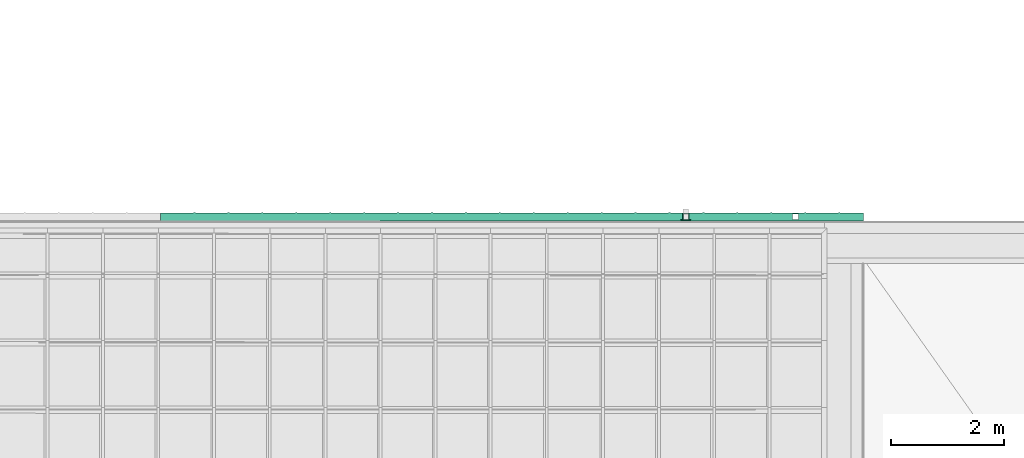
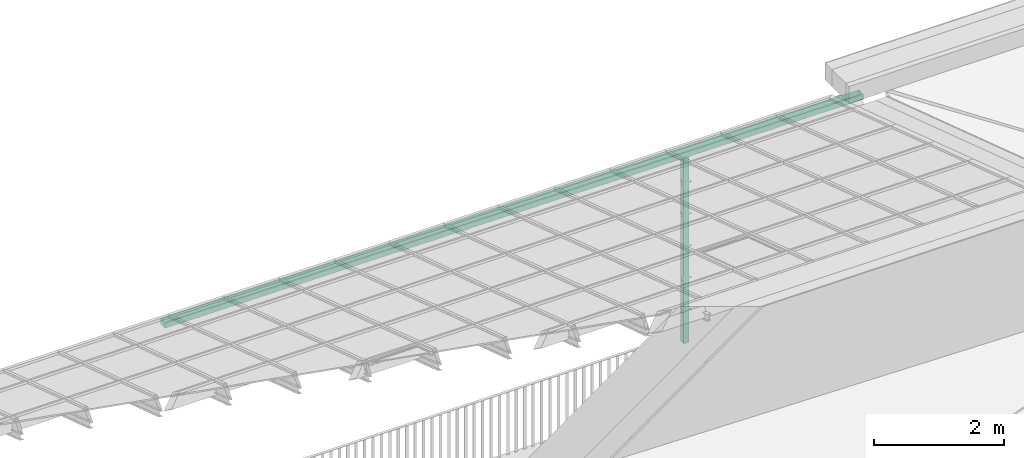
# One storey, part 29 of 47: 2 flow terminals.
"""IFC2X3 building model written with IfcOpenShell, lengths in millimetres."""

from ifc_helpers import new_model, entity, si_unit, converted_unit, derived_unit, money_unit, direction, frame, origin_with_axes, place, context, subcontext, project, spatial, open_shell, faceted_brep, surface_model, type_object, element, save


model = new_model("IFC2X3")

# Units and contexts
model_context = context("Model", 3, precision=1e-05, world=origin_with_axes(), true_north=direction((0.0, 1.0)))
body_context = subcontext(model_context, "Body", "Model", "MODEL_VIEW")
ifc_project = project(units=[si_unit("LENGTHUNIT", "METRE", prefix="MILLI"), si_unit("AREAUNIT", "SQUARE_METRE"), si_unit("VOLUMEUNIT", "CUBIC_METRE"), converted_unit("PLANEANGLEUNIT", "DEGREE", entity("IfcPlaneAngleMeasure", 0.0174532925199), si_unit("PLANEANGLEUNIT", "RADIAN"), dimensions=[0, 0, 0, 0, 0, 0, 0]), si_unit("SOLIDANGLEUNIT", "STERADIAN"), money_unit("EUR"), converted_unit("TIMEUNIT", "Year", entity("IfcTimeMeasure", 31556926.0), si_unit("TIMEUNIT", "SECOND"), dimensions=[0, 0, 1, 0, 0, 0, 0]), si_unit("MASSUNIT", "GRAM", prefix="KILO"), si_unit("THERMODYNAMICTEMPERATUREUNIT", "DEGREE_CELSIUS"), si_unit("LUMINOUSINTENSITYUNIT", "LUMEN"), si_unit("ENERGYUNIT", "JOULE", prefix="MEGA"), derived_unit("THERMALCONDUCTANCEUNIT", [(si_unit("POWERUNIT", "WATT"), 1), (si_unit("LENGTHUNIT", "METRE"), -1), (si_unit("THERMODYNAMICTEMPERATUREUNIT", "KELVIN"), -1)]), derived_unit("SPECIFICHEATCAPACITYUNIT", [(si_unit("ENERGYUNIT", "JOULE"), 1), (si_unit("MASSUNIT", "GRAM", prefix="KILO"), -1), (si_unit("THERMODYNAMICTEMPERATUREUNIT", "KELVIN"), -1)]), derived_unit("MASSDENSITYUNIT", [(si_unit("MASSUNIT", "GRAM", prefix="KILO"), 1), (si_unit("VOLUMEUNIT", "CUBIC_METRE"), -1)])], contexts=[model_context])

# Site, building, storey
site_placement = place(None, origin_with_axes())
site = spatial("IfcSite", under=ifc_project, at=site_placement, Name="Site", CompositionType="ELEMENT")
building_placement = place(site_placement, origin_with_axes())
building = spatial("IfcBuilding", under=site, at=building_placement, Name="Building", CompositionType="ELEMENT")
storey_placement = place(building_placement, frame((0.0, 0.0, 6000.0), z_axis=(0.0, 0.0, 1.0), x_axis=(1.0, 0.0, 0.0)))
storey = spatial("IfcBuildingStorey", under=building, at=storey_placement, Name="KATUSEPLAAN", CompositionType="ELEMENT", Elevation=6000.0)

# Flow terminals
waste_terminal_type_1 = type_object("IfcWasteTerminalType", Name="Gutter 22", PredefinedType="NOTDEFINED")
flow_terminal_1_placement = place(storey_placement, frame((76089.514123, 47597.8063405, 502.039034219), z_axis=(0.0, 0.0, 1.0), x_axis=(-1.0, 0.0, 0.0)))
element("IfcFlowTerminal", 1, at=flow_terminal_1_placement, inside=storey, type_object=waste_terminal_type_1, Name="Renn", context=body_context, shape_type="SurfaceModel", body=[
    surface_model("IfcShellBasedSurfaceModel", [(0.349065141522, 70.0, -99.9993907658), (-12429.6509349, 70.0, -143.388452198), (-12429.6509349, -70.0, -143.388452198), (0.349065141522, -70.0, -99.9993907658), (-11279.5822133, 50.0, -139.37393873), (-11179.5828225, 50.0, -139.024873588), (-11179.5828225, -50.0, -139.024873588), (-11279.5822133, -50.0, -139.37393873), (-12430.0, 70.0, -43.3890614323), (0.0, 70.0, 0.0), (-12430.0, -70.0, -43.3890614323), (0.0, -70.0, 0.0)], [open_shell([[[0, 1, 2, 3], [4, 5, 6, 7]], [[8, 1, 0, 9]], [[2, 10, 11, 3]]])]),
    surface_model("IfcShellBasedSurfaceModel", [(-585.0, -74.0, -0.0420435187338), (-615.0, -74.0, -0.0420435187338), (-615.0, -74.0, -104.147372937), (-585.0, -74.0, -104.147372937), (-615.0, 74.0, -104.147372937), (-585.0, 74.0, -104.147372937), (-615.0, 74.0, -0.0420435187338), (-585.0, 74.0, -0.0420435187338)], [open_shell([[[0, 1, 2, 3]], [[3, 2, 4, 5]], [[5, 4, 6, 7]]])]),
    surface_model("IfcShellBasedSurfaceModel", [(-1185.0, -74.0, -2.13644712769), (-1215.0, -74.0, -2.13644712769), (-1215.0, -74.0, -106.241776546), (-1185.0, -74.0, -106.241776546), (-1215.0, 74.0, -106.241776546), (-1185.0, 74.0, -106.241776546), (-1215.0, 74.0, -2.13644712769), (-1185.0, 74.0, -2.13644712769)], [open_shell([[[0, 1, 2, 3]], [[3, 2, 4, 5]], [[5, 4, 6, 7]]])]),
    surface_model("IfcShellBasedSurfaceModel", [(-1785.0, -74.0, -4.23085073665), (-1815.0, -74.0, -4.23085073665), (-1815.0, -74.0, -108.336180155), (-1785.0, -74.0, -108.336180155), (-1815.0, 74.0, -108.336180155), (-1785.0, 74.0, -108.336180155), (-1815.0, 74.0, -4.23085073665), (-1785.0, 74.0, -4.23085073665)], [open_shell([[[0, 1, 2, 3]], [[3, 2, 4, 5]], [[5, 4, 6, 7]]])]),
    surface_model("IfcShellBasedSurfaceModel", [(-2385.0, -74.0, -6.32525434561), (-2415.0, -74.0, -6.32525434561), (-2415.0, -74.0, -110.430583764), (-2385.0, -74.0, -110.430583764), (-2415.0, 74.0, -110.430583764), (-2385.0, 74.0, -110.430583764), (-2415.0, 74.0, -6.32525434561), (-2385.0, 74.0, -6.32525434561)], [open_shell([[[0, 1, 2, 3]], [[3, 2, 4, 5]], [[5, 4, 6, 7]]])]),
    surface_model("IfcShellBasedSurfaceModel", [(-2985.0, -74.0, -8.41965795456), (-3015.0, -74.0, -8.41965795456), (-3015.0, -74.0, -112.524987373), (-2985.0, -74.0, -112.524987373), (-3015.0, 74.0, -112.524987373), (-2985.0, 74.0, -112.524987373), (-3015.0, 74.0, -8.41965795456), (-2985.0, 74.0, -8.41965795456)], [open_shell([[[0, 1, 2, 3]], [[3, 2, 4, 5]], [[5, 4, 6, 7]]])]),
    surface_model("IfcShellBasedSurfaceModel", [(-3585.0, -74.0, -10.5140615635), (-3615.0, -74.0, -10.5140615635), (-3615.0, -74.0, -114.619390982), (-3585.0, -74.0, -114.619390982), (-3615.0, 74.0, -114.619390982), (-3585.0, 74.0, -114.619390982), (-3615.0, 74.0, -10.5140615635), (-3585.0, 74.0, -10.5140615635)], [open_shell([[[0, 1, 2, 3]], [[3, 2, 4, 5]], [[5, 4, 6, 7]]])]),
    surface_model("IfcShellBasedSurfaceModel", [(-4185.0, -74.0, -12.6084651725), (-4215.0, -74.0, -12.6084651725), (-4215.0, -74.0, -116.713794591), (-4185.0, -74.0, -116.713794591), (-4215.0, 74.0, -116.713794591), (-4185.0, 74.0, -116.713794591), (-4215.0, 74.0, -12.6084651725), (-4185.0, 74.0, -12.6084651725)], [open_shell([[[0, 1, 2, 3]], [[3, 2, 4, 5]], [[5, 4, 6, 7]]])]),
    surface_model("IfcShellBasedSurfaceModel", [(-4785.0, -74.0, -14.7028687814), (-4815.0, -74.0, -14.7028687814), (-4815.0, -74.0, -118.8081982), (-4785.0, -74.0, -118.8081982), (-4815.0, 74.0, -118.8081982), (-4785.0, 74.0, -118.8081982), (-4815.0, 74.0, -14.7028687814), (-4785.0, 74.0, -14.7028687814)], [open_shell([[[0, 1, 2, 3]], [[3, 2, 4, 5]], [[5, 4, 6, 7]]])]),
    surface_model("IfcShellBasedSurfaceModel", [(-5385.0, -74.0, -16.7972723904), (-5415.0, -74.0, -16.7972723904), (-5415.0, -74.0, -120.902601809), (-5385.0, -74.0, -120.902601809), (-5415.0, 74.0, -120.902601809), (-5385.0, 74.0, -120.902601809), (-5415.0, 74.0, -16.7972723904), (-5385.0, 74.0, -16.7972723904)], [open_shell([[[0, 1, 2, 3]], [[3, 2, 4, 5]], [[5, 4, 6, 7]]])]),
    surface_model("IfcShellBasedSurfaceModel", [(-5985.0, -74.0, -18.8916759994), (-6015.0, -74.0, -18.8916759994), (-6015.0, -74.0, -122.997005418), (-5985.0, -74.0, -122.997005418), (-6015.0, 74.0, -122.997005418), (-5985.0, 74.0, -122.997005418), (-6015.0, 74.0, -18.8916759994), (-5985.0, 74.0, -18.8916759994)], [open_shell([[[0, 1, 2, 3]], [[3, 2, 4, 5]], [[5, 4, 6, 7]]])]),
    surface_model("IfcShellBasedSurfaceModel", [(-6585.0, -74.0, -20.9860796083), (-6615.0, -74.0, -20.9860796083), (-6615.0, -74.0, -125.091409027), (-6585.0, -74.0, -125.091409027), (-6615.0, 74.0, -125.091409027), (-6585.0, 74.0, -125.091409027), (-6615.0, 74.0, -20.9860796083), (-6585.0, 74.0, -20.9860796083)], [open_shell([[[0, 1, 2, 3]], [[3, 2, 4, 5]], [[5, 4, 6, 7]]])]),
    surface_model("IfcShellBasedSurfaceModel", [(-7185.0, -74.0, -23.0804832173), (-7215.0, -74.0, -23.0804832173), (-7215.0, -74.0, -127.185812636), (-7185.0, -74.0, -127.185812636), (-7215.0, 74.0, -127.185812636), (-7185.0, 74.0, -127.185812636), (-7215.0, 74.0, -23.0804832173), (-7185.0, 74.0, -23.0804832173)], [open_shell([[[0, 1, 2, 3]], [[3, 2, 4, 5]], [[5, 4, 6, 7]]])]),
    surface_model("IfcShellBasedSurfaceModel", [(-7785.0, -74.0, -25.1748868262), (-7815.0, -74.0, -25.1748868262), (-7815.0, -74.0, -129.280216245), (-7785.0, -74.0, -129.280216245), (-7815.0, 74.0, -129.280216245), (-7785.0, 74.0, -129.280216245), (-7815.0, 74.0, -25.1748868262), (-7785.0, 74.0, -25.1748868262)], [open_shell([[[0, 1, 2, 3]], [[3, 2, 4, 5]], [[5, 4, 6, 7]]])]),
    surface_model("IfcShellBasedSurfaceModel", [(-8385.0, -74.0, -27.2692904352), (-8415.0, -74.0, -27.2692904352), (-8415.0, -74.0, -131.374619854), (-8385.0, -74.0, -131.374619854), (-8415.0, 74.0, -131.374619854), (-8385.0, 74.0, -131.374619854), (-8415.0, 74.0, -27.2692904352), (-8385.0, 74.0, -27.2692904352)], [open_shell([[[0, 1, 2, 3]], [[3, 2, 4, 5]], [[5, 4, 6, 7]]])]),
    surface_model("IfcShellBasedSurfaceModel", [(-8985.0, -74.0, -29.3636940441), (-9015.0, -74.0, -29.3636940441), (-9015.0, -74.0, -133.469023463), (-8985.0, -74.0, -133.469023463), (-9015.0, 74.0, -133.469023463), (-8985.0, 74.0, -133.469023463), (-9015.0, 74.0, -29.3636940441), (-8985.0, 74.0, -29.3636940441)], [open_shell([[[0, 1, 2, 3]], [[3, 2, 4, 5]], [[5, 4, 6, 7]]])]),
    surface_model("IfcShellBasedSurfaceModel", [(-9585.0, -74.0, -31.4580976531), (-9615.0, -74.0, -31.4580976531), (-9615.0, -74.0, -135.563427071), (-9585.0, -74.0, -135.563427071), (-9615.0, 74.0, -135.563427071), (-9585.0, 74.0, -135.563427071), (-9615.0, 74.0, -31.4580976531), (-9585.0, 74.0, -31.4580976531)], [open_shell([[[0, 1, 2, 3]], [[3, 2, 4, 5]], [[5, 4, 6, 7]]])]),
    surface_model("IfcShellBasedSurfaceModel", [(-10185.0, -74.0, -33.5525012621), (-10215.0, -74.0, -33.5525012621), (-10215.0, -74.0, -137.65783068), (-10185.0, -74.0, -137.65783068), (-10215.0, 74.0, -137.65783068), (-10185.0, 74.0, -137.65783068), (-10215.0, 74.0, -33.5525012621), (-10185.0, 74.0, -33.5525012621)], [open_shell([[[0, 1, 2, 3]], [[3, 2, 4, 5]], [[5, 4, 6, 7]]])]),
    surface_model("IfcShellBasedSurfaceModel", [(-10785.0, -74.0, -35.646904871), (-10815.0, -74.0, -35.646904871), (-10815.0, -74.0, -139.752234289), (-10785.0, -74.0, -139.752234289), (-10815.0, 74.0, -139.752234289), (-10785.0, 74.0, -139.752234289), (-10815.0, 74.0, -35.646904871), (-10785.0, 74.0, -35.646904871)], [open_shell([[[0, 1, 2, 3]], [[3, 2, 4, 5]], [[5, 4, 6, 7]]])]),
    surface_model("IfcShellBasedSurfaceModel", [(-11385.0, -74.0, -37.74130848), (-11415.0, -74.0, -37.74130848), (-11415.0, -74.0, -141.846637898), (-11385.0, -74.0, -141.846637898), (-11415.0, 74.0, -141.846637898), (-11385.0, 74.0, -141.846637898), (-11415.0, 74.0, -37.74130848), (-11385.0, 74.0, -37.74130848)], [open_shell([[[0, 1, 2, 3]], [[3, 2, 4, 5]], [[5, 4, 6, 7]]])]),
    surface_model("IfcShellBasedSurfaceModel", [(-11985.0, -74.0, -39.8357120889), (-12015.0, -74.0, -39.8357120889), (-12015.0, -74.0, -143.941041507), (-11985.0, -74.0, -143.941041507), (-12015.0, 74.0, -143.941041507), (-11985.0, 74.0, -143.941041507), (-12015.0, 74.0, -39.8357120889), (-11985.0, 74.0, -39.8357120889)], [open_shell([[[0, 1, 2, 3]], [[3, 2, 4, 5]], [[5, 4, 6, 7]]])]),
    surface_model("IfcShellBasedSurfaceModel", [(0.0, 70.0, 0.0), (0.0, -70.0, 0.0), (0.349065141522, -70.0, -99.9993907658), (0.349065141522, 70.0, -99.9993907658)], [open_shell([[[0, 1, 2, 3]]])]),
    surface_model("IfcShellBasedSurfaceModel", [(-12430.0, 70.0, -43.3890614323), (-12430.0, -70.0, -43.3890614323), (-12429.6509349, -70.0, -143.388452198), (-12429.6509349, 70.0, -143.388452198)], [open_shell([[[0, 1, 2, 3]]])]),
])
waste_terminal_type_2 = type_object("IfcWasteTerminalType", Name="Downspout 22", PredefinedType="NOTDEFINED")
flow_terminal_2_placement = place(storey_placement, frame((85378.802234, 47597.944531, -3139.11513673), z_axis=(0.0, 0.0, 1.0), x_axis=(-1.0, 0.0, 0.0)))
element("IfcFlowTerminal", 2, at=flow_terminal_2_placement, inside=storey, type_object=waste_terminal_type_2, Name="FU - 002", context=body_context, shape_type="SurfaceModel", body=[
    surface_model("IfcShellBasedSurfaceModel", [(50.0, -50.0, 3500.0), (50.0, -50.0, 0.0), (50.0, 50.0, 0.0), (50.0, 50.0, 3500.0), (-50.0, -50.0, 3500.0), (-50.0, -50.0, 0.0), (-50.0, 50.0, 0.0), (-50.0, 50.0, 3500.0)], [open_shell([[[0, 1, 2, 3]], [[4, 5, 1, 0]], [[3, 2, 6, 7]], [[7, 6, 5, 4]]])]),
    faceted_brep([(90.0, 47.9, 600.0), (90.0, 47.9, 630.0), (52.0, 47.9, 630.0), (52.0, 47.9, 600.0), (90.0, 49.9, 600.0), (90.0, 49.9, 630.0), (50.2, 49.9, 630.0), (50.2, -50.3, 630.0), (-50.2, -50.3, 630.0), (-50.2, 49.9, 630.0), (-90.0, 49.9, 630.0), (-90.0, 47.9, 630.0), (-52.0, 47.9, 630.0), (-52.0, -52.1, 630.0), (52.0, -52.1, 630.0), (52.0, -52.1, 600.0), (-52.0, -52.1, 600.0), (-52.0, 47.9, 600.0), (-90.0, 47.9, 600.0), (-90.0, 49.9, 600.0), (-50.2, 49.9, 600.0), (-50.2, -50.3, 600.0), (50.2, -50.3, 600.0), (50.2, 49.9, 600.0)], [[[0, 1, 2, 3]], [[4, 5, 1, 0]], [[1, 5, 6, 7, 8, 9, 10, 11, 12, 13, 14, 2]], [[3, 2, 14, 15]], [[0, 3, 15, 16, 17, 18, 19, 20, 21, 22, 23, 4]], [[23, 6, 5, 4]], [[22, 7, 6, 23]], [[21, 8, 7, 22]], [[20, 9, 8, 21]], [[19, 10, 9, 20]], [[18, 11, 10, 19]], [[17, 12, 11, 18]], [[16, 13, 12, 17]], [[15, 14, 13, 16]]]),
    faceted_brep([(90.0, 47.9, 1200.0), (90.0, 47.9, 1230.0), (52.0, 47.9, 1230.0), (52.0, 47.9, 1200.0), (90.0, 49.9, 1200.0), (90.0, 49.9, 1230.0), (50.2, 49.9, 1230.0), (50.2, -50.3, 1230.0), (-50.2, -50.3, 1230.0), (-50.2, 49.9, 1230.0), (-90.0, 49.9, 1230.0), (-90.0, 47.9, 1230.0), (-52.0, 47.9, 1230.0), (-52.0, -52.1, 1230.0), (52.0, -52.1, 1230.0), (52.0, -52.1, 1200.0), (-52.0, -52.1, 1200.0), (-52.0, 47.9, 1200.0), (-90.0, 47.9, 1200.0), (-90.0, 49.9, 1200.0), (-50.2, 49.9, 1200.0), (-50.2, -50.3, 1200.0), (50.2, -50.3, 1200.0), (50.2, 49.9, 1200.0)], [[[0, 1, 2, 3]], [[4, 5, 1, 0]], [[1, 5, 6, 7, 8, 9, 10, 11, 12, 13, 14, 2]], [[3, 2, 14, 15]], [[0, 3, 15, 16, 17, 18, 19, 20, 21, 22, 23, 4]], [[23, 6, 5, 4]], [[22, 7, 6, 23]], [[21, 8, 7, 22]], [[20, 9, 8, 21]], [[19, 10, 9, 20]], [[18, 11, 10, 19]], [[17, 12, 11, 18]], [[16, 13, 12, 17]], [[15, 14, 13, 16]]]),
    faceted_brep([(90.0, 47.9, 1800.0), (90.0, 47.9, 1830.0), (52.0, 47.9, 1830.0), (52.0, 47.9, 1800.0), (90.0, 49.9, 1800.0), (90.0, 49.9, 1830.0), (50.2, 49.9, 1830.0), (50.2, -50.3, 1830.0), (-50.2, -50.3, 1830.0), (-50.2, 49.9, 1830.0), (-90.0, 49.9, 1830.0), (-90.0, 47.9, 1830.0), (-52.0, 47.9, 1830.0), (-52.0, -52.1, 1830.0), (52.0, -52.1, 1830.0), (52.0, -52.1, 1800.0), (-52.0, -52.1, 1800.0), (-52.0, 47.9, 1800.0), (-90.0, 47.9, 1800.0), (-90.0, 49.9, 1800.0), (-50.2, 49.9, 1800.0), (-50.2, -50.3, 1800.0), (50.2, -50.3, 1800.0), (50.2, 49.9, 1800.0)], [[[0, 1, 2, 3]], [[4, 5, 1, 0]], [[1, 5, 6, 7, 8, 9, 10, 11, 12, 13, 14, 2]], [[3, 2, 14, 15]], [[0, 3, 15, 16, 17, 18, 19, 20, 21, 22, 23, 4]], [[23, 6, 5, 4]], [[22, 7, 6, 23]], [[21, 8, 7, 22]], [[20, 9, 8, 21]], [[19, 10, 9, 20]], [[18, 11, 10, 19]], [[17, 12, 11, 18]], [[16, 13, 12, 17]], [[15, 14, 13, 16]]]),
    faceted_brep([(90.0, 47.9, 2400.0), (90.0, 47.9, 2430.0), (52.0, 47.9, 2430.0), (52.0, 47.9, 2400.0), (90.0, 49.9, 2400.0), (90.0, 49.9, 2430.0), (50.2, 49.9, 2430.0), (50.2, -50.3, 2430.0), (-50.2, -50.3, 2430.0), (-50.2, 49.9, 2430.0), (-90.0, 49.9, 2430.0), (-90.0, 47.9, 2430.0), (-52.0, 47.9, 2430.0), (-52.0, -52.1, 2430.0), (52.0, -52.1, 2430.0), (52.0, -52.1, 2400.0), (-52.0, -52.1, 2400.0), (-52.0, 47.9, 2400.0), (-90.0, 47.9, 2400.0), (-90.0, 49.9, 2400.0), (-50.2, 49.9, 2400.0), (-50.2, -50.3, 2400.0), (50.2, -50.3, 2400.0), (50.2, 49.9, 2400.0)], [[[0, 1, 2, 3]], [[4, 5, 1, 0]], [[1, 5, 6, 7, 8, 9, 10, 11, 12, 13, 14, 2]], [[3, 2, 14, 15]], [[0, 3, 15, 16, 17, 18, 19, 20, 21, 22, 23, 4]], [[23, 6, 5, 4]], [[22, 7, 6, 23]], [[21, 8, 7, 22]], [[20, 9, 8, 21]], [[19, 10, 9, 20]], [[18, 11, 10, 19]], [[17, 12, 11, 18]], [[16, 13, 12, 17]], [[15, 14, 13, 16]]]),
    faceted_brep([(90.0, 47.9, 3000.0), (90.0, 47.9, 3030.0), (52.0, 47.9, 3030.0), (52.0, 47.9, 3000.0), (90.0, 49.9, 3000.0), (90.0, 49.9, 3030.0), (50.2, 49.9, 3030.0), (50.2, -50.3, 3030.0), (-50.2, -50.3, 3030.0), (-50.2, 49.9, 3030.0), (-90.0, 49.9, 3030.0), (-90.0, 47.9, 3030.0), (-52.0, 47.9, 3030.0), (-52.0, -52.1, 3030.0), (52.0, -52.1, 3030.0), (52.0, -52.1, 3000.0), (-52.0, -52.1, 3000.0), (-52.0, 47.9, 3000.0), (-90.0, 47.9, 3000.0), (-90.0, 49.9, 3000.0), (-50.2, 49.9, 3000.0), (-50.2, -50.3, 3000.0), (50.2, -50.3, 3000.0), (50.2, 49.9, 3000.0)], [[[0, 1, 2, 3]], [[4, 5, 1, 0]], [[1, 5, 6, 7, 8, 9, 10, 11, 12, 13, 14, 2]], [[3, 2, 14, 15]], [[0, 3, 15, 16, 17, 18, 19, 20, 21, 22, 23, 4]], [[23, 6, 5, 4]], [[22, 7, 6, 23]], [[21, 8, 7, 22]], [[20, 9, 8, 21]], [[19, 10, 9, 20]], [[18, 11, 10, 19]], [[17, 12, 11, 18]], [[16, 13, 12, 17]], [[15, 14, 13, 16]]]),
])

save(model, "model.ifc")
